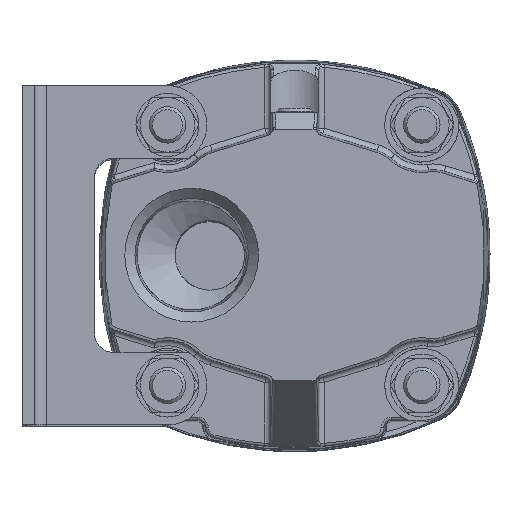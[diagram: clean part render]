
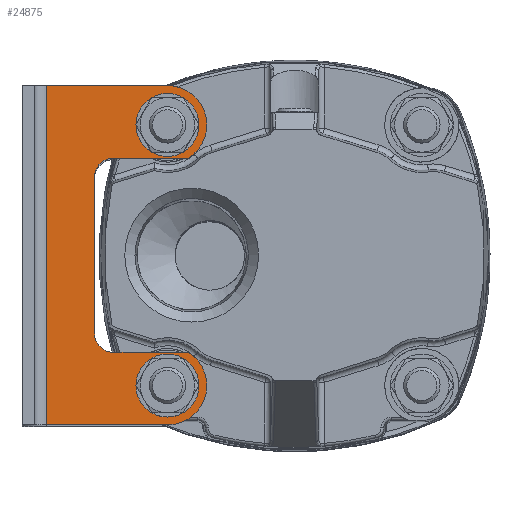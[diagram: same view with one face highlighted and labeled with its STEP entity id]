
A CAD part, top view. The second image highlights one B-rep face of the part: STEP entity #24875.
In plain terms, the highlighted planar face has unit normal (0, 0, 1).
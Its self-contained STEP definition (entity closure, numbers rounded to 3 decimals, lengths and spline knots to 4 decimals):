
#2704=FACE_BOUND($,#7496,.T.);
#2705=FACE_BOUND($,#7497,.T.);
#2706=FACE_BOUND($,#7498,.T.);
#3561=LINE($,#46589,#4479);
#3564=LINE($,#46596,#4482);
#3569=LINE($,#46617,#4487);
#3570=LINE($,#46621,#4488);
#3571=LINE($,#46625,#4489);
#3572=LINE($,#46629,#4490);
#4479=VECTOR($,#32764,1.25);
#4482=VECTOR($,#32771,3.5);
#4487=VECTOR($,#32794,1.25);
#4488=VECTOR($,#32797,0.7776);
#4489=VECTOR($,#32800,1.624);
#4490=VECTOR($,#32803,0.7776);
#7496=EDGE_LOOP($,(#19926));
#7497=EDGE_LOOP($,(#19927));
#7498=EDGE_LOOP($,(#19928,#19929,#19930,#19931,#19932,#19933,#19934,#19935,
#19936,#19937));
#9370=CIRCLE($,#27256,0.3248);
#9405=CIRCLE($,#27339,0.3248);
#9420=CIRCLE($,#27375,0.406);
#9421=CIRCLE($,#27376,0.188);
#9422=CIRCLE($,#27377,0.188);
#9423=CIRCLE($,#27378,0.406);
#11361=VERTEX_POINT($,#46256);
#11408=VERTEX_POINT($,#46482);
#11434=VERTEX_POINT($,#46586);
#11435=VERTEX_POINT($,#46588);
#11437=VERTEX_POINT($,#46594);
#11444=VERTEX_POINT($,#46616);
#11445=VERTEX_POINT($,#46618);
#11446=VERTEX_POINT($,#46620);
#11447=VERTEX_POINT($,#46622);
#11448=VERTEX_POINT($,#46624);
#11449=VERTEX_POINT($,#46626);
#11450=VERTEX_POINT($,#46628);
#14303=EDGE_CURVE($,#11361,#11361,#9370,.T.);
#14386=EDGE_CURVE($,#11408,#11408,#9405,.T.);
#14426=EDGE_CURVE($,#11434,#11435,#3561,.T.);
#14430=EDGE_CURVE($,#11437,#11434,#3564,.T.);
#14439=EDGE_CURVE($,#11444,#11437,#3569,.T.);
#14440=EDGE_CURVE($,#11445,#11444,#9420,.T.);
#14441=EDGE_CURVE($,#11446,#11445,#3570,.T.);
#14442=EDGE_CURVE($,#11447,#11446,#9421,.T.);
#14443=EDGE_CURVE($,#11448,#11447,#3571,.T.);
#14444=EDGE_CURVE($,#11449,#11448,#9422,.T.);
#14445=EDGE_CURVE($,#11450,#11449,#3572,.T.);
#14446=EDGE_CURVE($,#11435,#11450,#9423,.T.);
#19926=ORIENTED_EDGE($,*,*,#14303,.T.);
#19927=ORIENTED_EDGE($,*,*,#14386,.T.);
#19928=ORIENTED_EDGE($,*,*,#14430,.F.);
#19929=ORIENTED_EDGE($,*,*,#14439,.F.);
#19930=ORIENTED_EDGE($,*,*,#14440,.F.);
#19931=ORIENTED_EDGE($,*,*,#14441,.F.);
#19932=ORIENTED_EDGE($,*,*,#14442,.F.);
#19933=ORIENTED_EDGE($,*,*,#14443,.F.);
#19934=ORIENTED_EDGE($,*,*,#14444,.F.);
#19935=ORIENTED_EDGE($,*,*,#14445,.F.);
#19936=ORIENTED_EDGE($,*,*,#14446,.F.);
#19937=ORIENTED_EDGE($,*,*,#14426,.F.);
#23868=PLANE($,#27374);
#24875=ADVANCED_FACE($,(#2704,#2705,#2706),#23868,.F.);
#27256=AXIS2_PLACEMENT_3D($,#46257,#32506,#32507);
#27339=AXIS2_PLACEMENT_3D($,#46483,#32696,#32697);
#27374=AXIS2_PLACEMENT_3D($,#46615,#32792,#32793);
#27375=AXIS2_PLACEMENT_3D($,#46619,#32795,#32796);
#27376=AXIS2_PLACEMENT_3D($,#46623,#32798,#32799);
#27377=AXIS2_PLACEMENT_3D($,#46627,#32801,#32802);
#27378=AXIS2_PLACEMENT_3D($,#46630,#32804,#32805);
#32506=DIRECTION('center_axis',(0.,0.,
-1.));
#32507=DIRECTION('ref_axis',(-1.,0.,0.));
#32696=DIRECTION('center_axis',(0.,0.,
-1.));
#32697=DIRECTION('ref_axis',(-1.,0.,0.));
#32764=DIRECTION($,(1.,0.,0.));
#32771=DIRECTION($,(0.,1.,0.));
#32792=DIRECTION('center_axis',(0.,0.,
-1.));
#32793=DIRECTION('ref_axis',(0.,1.,0.));
#32794=DIRECTION($,(-1.,0.,0.));
#32795=DIRECTION('center_axis',(0.,0.,
-1.));
#32796=DIRECTION('ref_axis',(0.531,0.847,0.));
#32797=DIRECTION($,(1.,0.,0.));
#32798=DIRECTION('center_axis',(0.,0.,
1.));
#32799=DIRECTION('ref_axis',(0.,1.,0.));
#32800=DIRECTION($,(0.,-1.,0.));
#32801=DIRECTION('center_axis',(0.,0.,
1.));
#32802=DIRECTION('ref_axis',(1.,0.,0.));
#32803=DIRECTION($,(-1.,0.,0.));
#32804=DIRECTION('center_axis',(0.,0.,
-1.));
#32805=DIRECTION('ref_axis',(0.,1.,0.));
#46256=CARTESIAN_POINT('',(-0.9872,1.344,0.8705));
#46257=CARTESIAN_POINT('Origin',(-1.312,1.344,0.8705));
#46482=CARTESIAN_POINT('',(-0.9872,-1.344,0.8705));
#46483=CARTESIAN_POINT('Origin',(-1.312,-1.344,0.8705));
#46586=CARTESIAN_POINT('',(-2.562,1.75,0.8705));
#46588=CARTESIAN_POINT('',(-1.312,1.75,0.8705));
#46589=CARTESIAN_POINT($,(-2.812,1.75,0.8705));
#46594=CARTESIAN_POINT('',(-2.562,-1.75,0.8705));
#46596=CARTESIAN_POINT($,(-2.562,0.875,0.8705));
#46615=CARTESIAN_POINT('Origin',(-2.025,0.,
0.8705));
#46616=CARTESIAN_POINT('',(-1.312,-1.75,0.8705));
#46617=CARTESIAN_POINT($,(-1.312,-1.75,0.8705));
#46618=CARTESIAN_POINT('',(-1.0964,-1.,0.8705));
#46619=CARTESIAN_POINT('Origin',(-1.312,-1.344,0.8705));
#46620=CARTESIAN_POINT('',(-1.874,-1.,0.8705));
#46621=CARTESIAN_POINT($,(-1.874,-1.,0.8705));
#46622=CARTESIAN_POINT('',(-2.062,-0.812,0.8705));
#46623=CARTESIAN_POINT('Origin',(-1.874,-0.812,0.8705));
#46624=CARTESIAN_POINT('',(-2.062,0.812,0.8705));
#46625=CARTESIAN_POINT($,(-2.062,0.812,0.8705));
#46626=CARTESIAN_POINT('',(-1.874,1.,0.8705));
#46627=CARTESIAN_POINT('Origin',(-1.874,0.812,0.8705));
#46628=CARTESIAN_POINT('',(-1.0964,1.,0.8705));
#46629=CARTESIAN_POINT($,(-1.0964,1.,0.8705));
#46630=CARTESIAN_POINT('Origin',(-1.312,1.344,0.8705));
